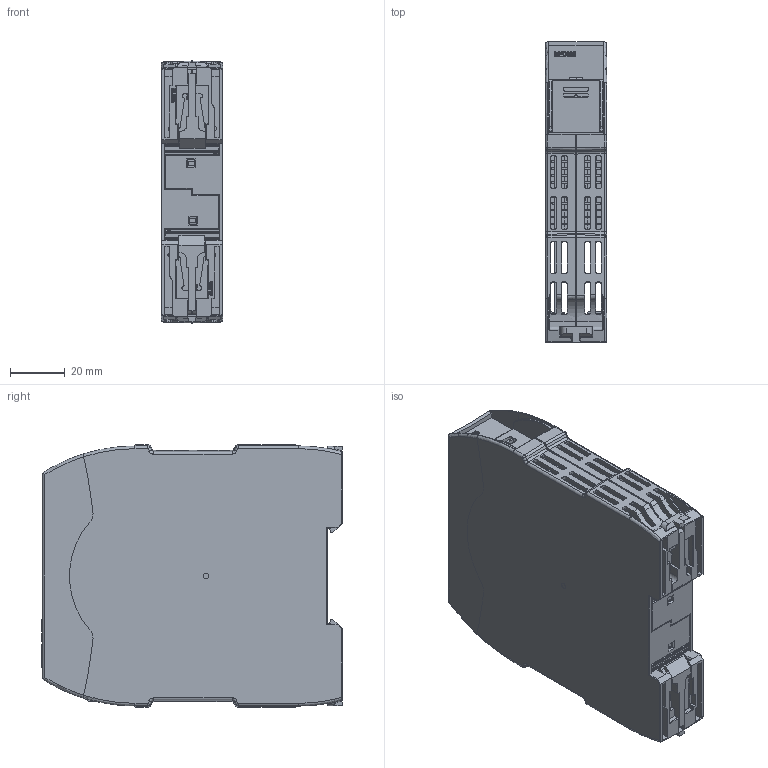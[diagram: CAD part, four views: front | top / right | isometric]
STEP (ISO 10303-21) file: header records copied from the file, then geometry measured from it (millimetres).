
FILE_DESCRIPTION(/* description */ (''),/* implementation_level */ '2;1');
FILE_NAME(/* name */ 'H:/Meeh/CAD-Backup_30092020/ConCanModul v3.step',/* time_stamp */ '2021-03-02T16:36:56+01:00',/* author */ (''),/* organization */ (''),/* preprocessor_version */ 'ST-DEVELOPER v18.1',/* originating_system */ 'Autodesk Translation Framework v9.7.1.1290',/* authorisation */ '');
FILE_SCHEMA (('AUTOMOTIVE_DESIGN { 1 0 10303 214 3 1 1 }'));
Products named in the file (31): ConCanModul; ConCanModul_1; Gehäuse-Pilz-22.5 v2; 2016282_ASM; 2016280_ASM; 2008350_AF4; 2016276_ASM; 2016274_ASM; 2008350_AF3; 2001992; 2025561_ASM; 2020990_AF0_ASM; 2008250_AF19; 2008248; Con_Can v1; Board; Open CASCADE STEP translator 6.8 4.1.1; X1; Pilz15184; 2001601; FR1; 8476799568; Extruded (1); DMC1; 6349162624; Extruded; X2; 2001627; Blende_17179; 2008358; St_X4-X2_4
Assembly tree (32 placements, depth 6):
  ConCanModul
    ConCanModul_1
      Gehäuse-Pilz-22.5 v2
        2016282_ASM
          2016280_ASM
            2008350_AF4
          2001992
        2016276_ASM
          2016274_ASM
            2008350_AF3
          2001992
        2025561_ASM
          2020990_AF0_ASM
            2008250_AF19
          2008248  x2
      Con_Can v1
        Board
          Open CASCADE STEP translator 6.8 4.1.1
        X1
          Pilz15184
            2001601
        FR1
          8476799568
            Extruded (1)
        DMC1
          6349162624
            Extruded
        X2
          2001627
      Blende_17179
        2008358
      St_X4-X2_4
Bounding box: 22.5 x 110.2 x 96 mm (x, y, z)
Volume: 51326.4 mm3; surface area: 90560.9 mm2
Topology: 14 solids, 14 shells, 5637 faces, 15159 edges, 9635 vertices
Faces by surface type: plane 3224, cylinder 1660, bspline 369, sphere 210, cone 111, torus 63
Full cylindrical faces by diameter (mm): 0.431 x1, 0.8 x20, 1 x15, 1.1 x9, 1.4 x7, 1.6 x1, 2 x2, 2.2 x1, 2.5 x3, 2.7 x4, 3 x5
Entity records: 203342 total; most frequent: CARTESIAN_POINT 61965, ORIENTED_EDGE 29730, DIRECTION 27759, EDGE_CURVE 14865, LINE 10161, VECTOR 10161, VERTEX_POINT 9451, AXIS2_PLACEMENT_3D 8799
